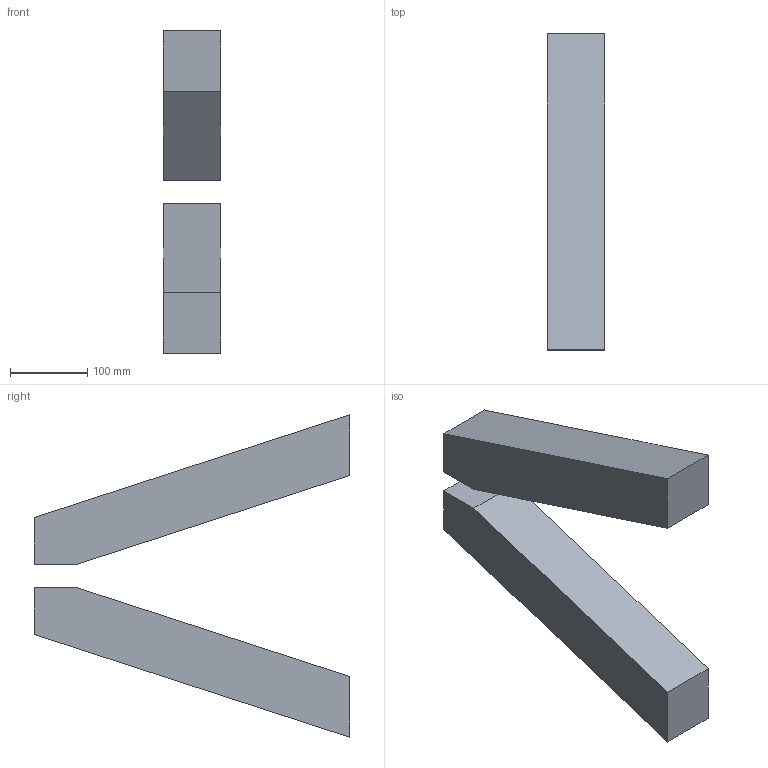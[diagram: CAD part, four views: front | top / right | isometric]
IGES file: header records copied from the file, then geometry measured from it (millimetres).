
Start section: SolidWorks IGES file using NURBS representation for surfaces
Global section: file name: W:\01-VICCARBE\PRODUCTOS\45-TRESTLE\04-MODELADOS (PLANOS)\WEB\IGES\viccarbe_trestle_legs.IGS; native system: SolidWorks 2013; preprocessor: SolidWorks 2013; author: Usuario; date: 140917.173732; units: millimetre
Bounding box: 75 x 410 x 418.35 mm (x, y, z)
Surface area: 277234.1 mm2 (no closed solid volume)
Topology: 0 solids, 0 shells, 14 faces, 60 edges, 60 vertices
Faces by surface type: bspline 14
